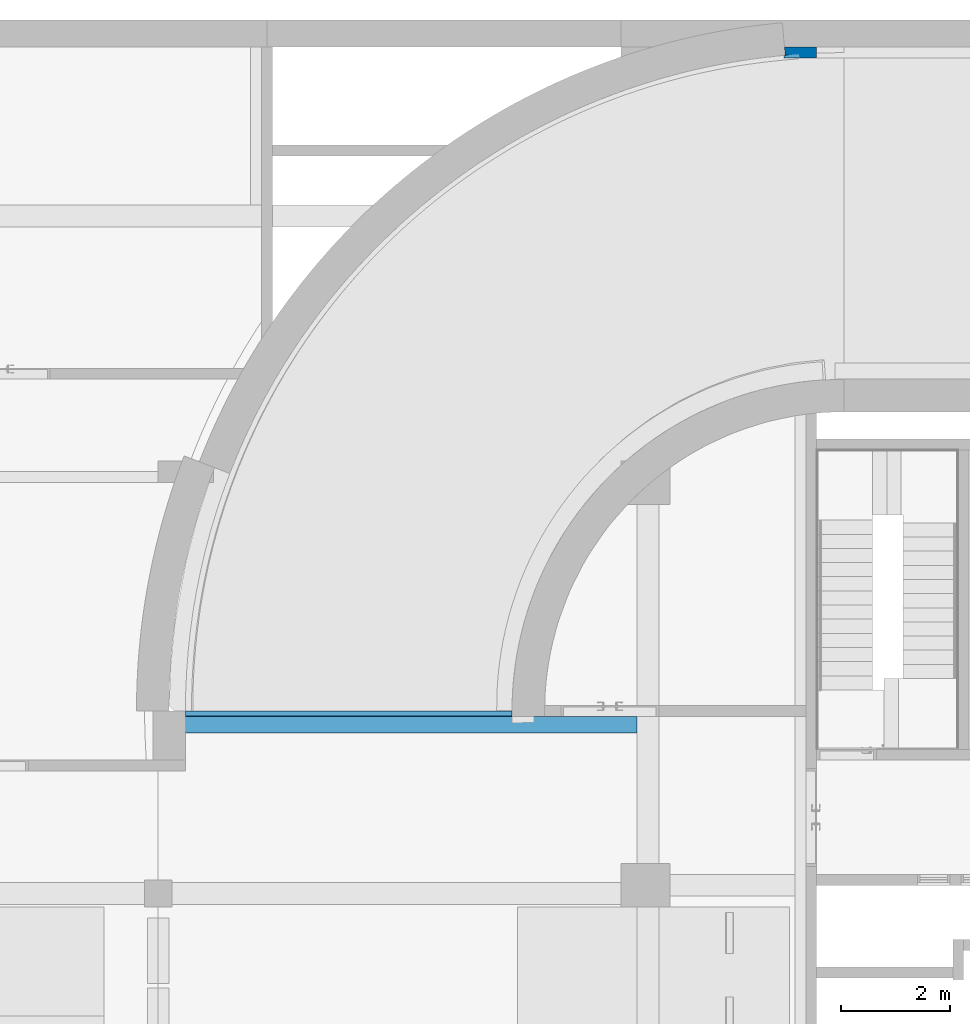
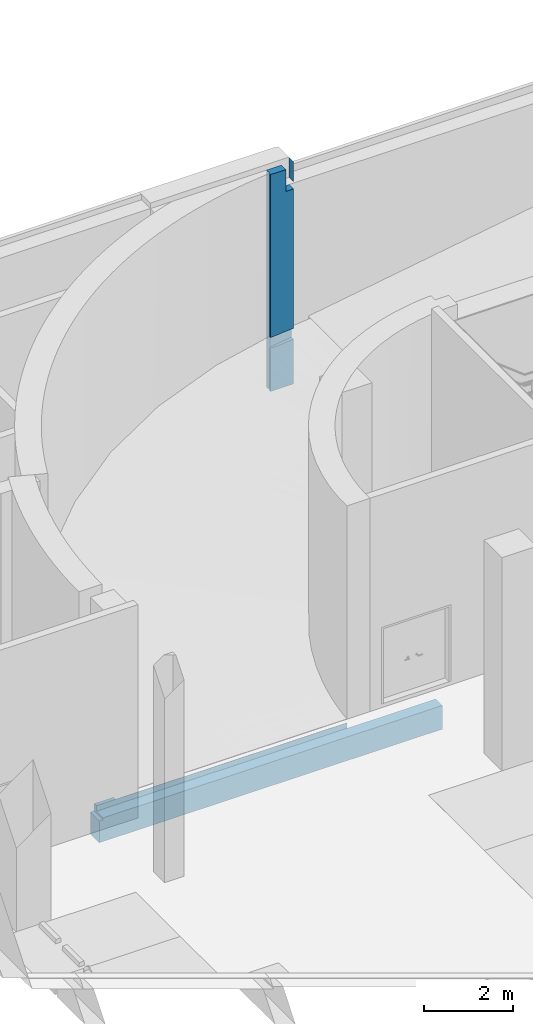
# One storey, part 18 of 29: 1 beam, 1 column.
"""IFC2X3 building model written with IfcOpenShell, lengths in millimetres."""

from ifc_helpers import new_model, entity, si_unit, converted_unit, derived_unit, direction, frame, origin, place, context, subcontext, project, spatial, faceted_brep, source, transform, mapped, material, material_list, type_object, type_shapes, element, save


model = new_model("IFC2X3")

# Units and contexts
model_context = context("Model", 3, precision=0.01, world=origin(), true_north=direction((6.123031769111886e-17, 1.0)))
body_context = subcontext(model_context, "Body", "Model", "MODEL_VIEW")
ifc_project = project(units=[si_unit("LENGTHUNIT", "METRE", prefix="MILLI"), si_unit("AREAUNIT", "SQUARE_METRE"), si_unit("VOLUMEUNIT", "CUBIC_METRE"), converted_unit("PLANEANGLEUNIT", "DEGREE", entity("IfcRatioMeasure", 0.017453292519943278), si_unit("PLANEANGLEUNIT", "RADIAN"), dimensions=[0, 0, 0, 0, 0, 0, 0]), si_unit("MASSUNIT", "GRAM", prefix="KILO"), derived_unit("MASSDENSITYUNIT", [(si_unit("MASSUNIT", "GRAM", prefix="KILO"), 1), (si_unit("LENGTHUNIT", "METRE"), -3)]), derived_unit("MOMENTOFINERTIAUNIT", [(si_unit("LENGTHUNIT", "METRE"), 4)]), si_unit("TIMEUNIT", "SECOND"), si_unit("FREQUENCYUNIT", "HERTZ"), si_unit("THERMODYNAMICTEMPERATUREUNIT", "DEGREE_CELSIUS"), derived_unit("THERMALTRANSMITTANCEUNIT", [(si_unit("MASSUNIT", "GRAM", prefix="KILO"), 1), (si_unit("THERMODYNAMICTEMPERATUREUNIT", "KELVIN"), -1), (si_unit("TIMEUNIT", "SECOND"), -3)]), derived_unit("VOLUMETRICFLOWRATEUNIT", [(si_unit("LENGTHUNIT", "METRE"), 3), (si_unit("TIMEUNIT", "SECOND"), -1)]), derived_unit("MASSFLOWRATEUNIT", [(si_unit("MASSUNIT", "GRAM", prefix="KILO"), 1), (si_unit("TIMEUNIT", "SECOND"), -1)]), derived_unit("ROTATIONALFREQUENCYUNIT", [(si_unit("TIMEUNIT", "SECOND"), -1)]), si_unit("ELECTRICCURRENTUNIT", "AMPERE"), si_unit("ELECTRICVOLTAGEUNIT", "VOLT"), si_unit("POWERUNIT", "WATT"), si_unit("FORCEUNIT", "NEWTON", prefix="KILO"), si_unit("ILLUMINANCEUNIT", "LUX"), si_unit("LUMINOUSFLUXUNIT", "LUMEN"), si_unit("LUMINOUSINTENSITYUNIT", "CANDELA"), derived_unit("USERDEFINED", [(si_unit("MASSUNIT", "GRAM", prefix="KILO"), -1), (si_unit("LENGTHUNIT", "METRE"), -2), (si_unit("TIMEUNIT", "SECOND"), 3), (si_unit("LUMINOUSFLUXUNIT", "LUMEN"), 1)]), derived_unit("SOUNDPOWERUNIT", [(si_unit("MASSUNIT", "GRAM", prefix="KILO"), 1), (si_unit("LENGTHUNIT", "METRE"), 2), (si_unit("TIMEUNIT", "SECOND"), -3)]), derived_unit("SOUNDPRESSUREUNIT", [(si_unit("MASSUNIT", "GRAM", prefix="KILO"), 1), (si_unit("LENGTHUNIT", "METRE"), -1), (si_unit("TIMEUNIT", "SECOND"), -2)]), derived_unit("LINEARVELOCITYUNIT", [(si_unit("LENGTHUNIT", "METRE"), 1), (si_unit("TIMEUNIT", "SECOND"), -1)]), si_unit("PRESSUREUNIT", "PASCAL"), derived_unit("USERDEFINED", [(si_unit("LENGTHUNIT", "METRE"), -2), (si_unit("MASSUNIT", "GRAM", prefix="KILO"), 1), (si_unit("TIMEUNIT", "SECOND"), -2)]), derived_unit("LINEARFORCEUNIT", [(si_unit("MASSUNIT", "GRAM", prefix="KILO"), 1), (si_unit("LENGTHUNIT", "METRE"), 1), (si_unit("TIMEUNIT", "SECOND"), -2), (si_unit("LENGTHUNIT", "METRE"), -1)]), derived_unit("PLANARFORCEUNIT", [(si_unit("MASSUNIT", "GRAM", prefix="KILO"), 1), (si_unit("LENGTHUNIT", "METRE"), 1), (si_unit("TIMEUNIT", "SECOND"), -2), (si_unit("LENGTHUNIT", "METRE"), -2)])], contexts=[model_context])

# Site, building, storey
site_placement = place(None, frame((-14167.972527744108, -657.2125860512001, 0.0)))
site = spatial("IfcSite", under=ifc_project, at=site_placement, Name="Default", CompositionType="ELEMENT")
building_placement = place(site_placement, origin())
building = spatial("IfcBuilding", under=site, at=building_placement, Name="Sample Building", CompositionType="ELEMENT")
storey_placement = place(building_placement, frame((0.0, 0.0, -6100.0)))
storey = spatial("IfcBuildingStorey", under=building, at=storey_placement, Name="지하1층", CompositionType="ELEMENT", Elevation=-6099.999999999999)

# Column
ifc_material = material(Name="KBIMS-콘크리트")
ifc_material_list_1 = material_list([ifc_material, ifc_material])
ifc_material_list_2 = material_list([ifc_material, ifc_material])
column_type = type_object("IfcColumnType", Name="CL111-철근콘크리트구조 기둥 (각형)1:CL111-철근콘크리트구조 기둥 (각형)_600x600_B2-10C4", PredefinedType="COLUMN", material=ifc_material_list_2)
shared_shape = source(origin(), body_context, "Body", "Brep", [
    faceted_brep([(12.088862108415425, 52.43512341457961, 0.0), (22.59105163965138, 53.38001963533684, 0.0), (9.321749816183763, 201.58719095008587, 0.0), (601.5875000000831, 201.58719095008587, 0.0), (601.5875000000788, 1.5875000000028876, 0.0), (1.5875000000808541, 1.5875000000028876, 0.0), (1.5874999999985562, 51.481075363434, 0.0), (399.7669022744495, 1.5874999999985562, 5350.0), (601.5875000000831, 1.5874999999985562, 5350.0), (601.5875000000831, 201.58719095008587, 5350.0), (399.7669022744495, 201.58719095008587, 5350.0), (601.5875000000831, 1.5874999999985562, 1526.3540235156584), (601.5875000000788, 26.352500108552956, 1526.4330045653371), (601.5875000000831, 46.41925903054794, 1526.497001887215), (601.5875000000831, 91.25112012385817, 1526.6389270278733), (601.5875000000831, 91.25112012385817, 1226.6389270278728), (601.5875000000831, 46.41925903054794, 1226.4970018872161), (601.5875000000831, 26.352500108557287, 1226.4330045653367), (601.5875000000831, 1.5874999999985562, 1226.35402351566), (311.8502261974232, 75.78587436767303, 1204.381623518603), (311.8502261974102, 75.78587436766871, 1504.3816235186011), (22.591051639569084, 53.380019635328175, 1482.1243215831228), (22.59105163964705, 53.38001963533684, 1182.124321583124), (301.590715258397, 1.5874999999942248, 1503.2195613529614), (226.59055920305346, 1.5874999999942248, 1497.4463337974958), (376.5904964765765, 1.5875000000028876, 1508.9973938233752), (526.5890732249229, 1.5874999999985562, 1520.5650902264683), (451.58993749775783, 1.5874999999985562, 1514.779385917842), (1.587499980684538, 26.534285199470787, 1480.332914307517), (12.08886203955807, 52.43512340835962, 1481.3153708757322), (1.5875000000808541, 51.481075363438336, 1480.5064183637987), (151.5899939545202, 1.5875000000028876, 1491.6781541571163), (76.58898546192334, 1.5874999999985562, 1485.9154629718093), (1.5875000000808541, 1.5874999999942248, 1480.1586981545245), (263.28369554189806, 1.5874999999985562, 1200.2702252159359), (330.9450582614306, 1.5874999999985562, 1205.4804337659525), (398.60613277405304, 1.5874999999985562, 1210.694249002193), (466.26695690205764, 1.5874999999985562, 1215.9113443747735), (533.9275054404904, 1.5874999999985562, 1221.1313870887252), (12.088862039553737, 52.43512340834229, 1181.3153708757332), (1.587499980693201, 26.534285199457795, 1180.3329143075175), (1.5875000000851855, 51.481075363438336, 1180.5064183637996), (132.43633113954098, 1.5875000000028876, 1190.2059427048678), (197.86017962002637, 1.5875000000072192, 1195.2360995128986), (67.01213608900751, 1.5875000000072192, 1185.180047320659), (1.5875000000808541, 1.5874999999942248, 1180.1586981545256), (399.7669022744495, 201.58719095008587, 5550.0), (399.7669022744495, 201.58719095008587, 5950.0), (399.7669022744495, 1.5874999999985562, 5950.0), (1.5875000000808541, 1.5874999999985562, 816.3475724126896), (201.58750000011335, 1.5874999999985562, 5950.0), (1.5875000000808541, 1.5874999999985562, 5950.0), (276.8869503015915, 1.5874999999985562, 5950.0), (9.321749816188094, 201.58719095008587, 5950.0), (22.591051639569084, 53.380019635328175, 5950.0), (12.088862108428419, 52.43512341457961, 5950.0), (1.5875000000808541, 51.48107536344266, 5950.0), (1.5874999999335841, 51.481075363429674, 5153.419959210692), (1.5874999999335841, 51.481075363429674, 5233.077963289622), (12.638931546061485, 52.48484288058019, 5147.178589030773), (1.5874999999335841, 51.481075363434, 5073.76195513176), (10.346427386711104, 52.277461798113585, 1635.1212768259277), (1.5874999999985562, 51.481075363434, 1720.5610997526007), (12.112810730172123, 52.43728860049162, 1705.500990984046), (11.353419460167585, 52.368608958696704, 3998.378900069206), (1.5874999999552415, 51.481075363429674, 3958.5498980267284), (1.58749999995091, 51.481075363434, 4038.207902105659), (12.123165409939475, 52.438224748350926, 3417.856828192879), (22.591051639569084, 53.380019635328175, 3367.009373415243), (11.301039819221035, 52.363869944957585, 3340.9301991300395), (11.070683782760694, 52.343025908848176, 5682.494776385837), (22.59105163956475, 53.380019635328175, 5740.5683275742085), (22.591051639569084, 53.380019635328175, 5670.757770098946), (22.591051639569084, 53.380019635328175, 5600.9472126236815), (12.279351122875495, 52.45234412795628, 3220.9028584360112), (22.591051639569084, 53.380019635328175, 3157.577700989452), (11.908602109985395, 52.41882463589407, 3100.8755177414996), (12.144037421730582, 52.44011172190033, 1564.7819312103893), (1.5874999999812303, 51.481075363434, 2440.725143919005), (12.119967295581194, 52.437935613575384, 2479.682074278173), (12.047959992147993, 52.43142535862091, 2388.518129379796), (12.190006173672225, 52.44426748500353, 4317.0109163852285), (10.876401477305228, 52.32544259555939, 4242.9093740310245), (1.58749999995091, 51.481075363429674, 4277.181914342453), (22.591051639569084, 53.380019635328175, 4972.652195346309), (12.15557170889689, 52.441154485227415, 4874.616944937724), (12.57268443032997, 52.47885630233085, 5007.557474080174), (12.027571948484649, 52.42958197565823, 2002.0374066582), (22.591051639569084, 53.380019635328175, 2041.841128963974), (22.591051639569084, 53.380019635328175, 1962.2336843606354), (1.587499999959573, 51.481075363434, 3878.8918939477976), (12.59329202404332, 52.480718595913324, 3890.5885544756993), (1.587499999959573, 51.481075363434, 3799.233889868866), (1.5874999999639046, 51.481075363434, 3480.601873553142), (1.5874999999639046, 51.481075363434, 3560.259877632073), (12.812132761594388, 52.5004928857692, 3520.430875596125), (12.637285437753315, 52.484694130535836, 5850.182607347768), (22.591051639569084, 53.380019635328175, 5810.378885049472), (12.499509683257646, 52.47224326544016, 5765.001452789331), (12.941390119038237, 52.51217060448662, 2827.7825010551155), (1.5874999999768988, 51.481075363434, 2800.8071660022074), (1.5874999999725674, 51.481075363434, 2920.8345066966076), (1.5874999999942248, 51.481075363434, 1600.5337590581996), (12.630205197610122, 52.484054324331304, 2913.240749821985), (22.591051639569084, 53.380019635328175, 2948.146028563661), (22.591051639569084, 53.380019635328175, 2878.3354710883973), (13.076781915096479, 52.52440103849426, 2557.0320015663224), (1.5874999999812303, 51.481075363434, 2560.752484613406), (11.636414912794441, 52.3942088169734, 2633.9985199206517), (22.591051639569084, 53.380019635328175, 2439.8783519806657), (11.018183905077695, 52.33827477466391, 3595.2767076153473), (12.905359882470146, 52.50891560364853, 4635.64293270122), (1.5874999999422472, 51.481075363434, 4675.4719347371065), (10.995076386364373, 52.33618351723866, 4709.9336942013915), (13.109234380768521, 52.5273323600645, 5483.0800975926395), (12.056586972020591, 52.43220535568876, 5352.564969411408), (1.5874999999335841, 51.481075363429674, 5392.393971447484), (22.591051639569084, 53.380019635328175, 3087.767143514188), (11.991223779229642, 52.426295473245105, 3024.839297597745), (1.5874999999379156, 51.481075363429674, 4914.445946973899), (1.5874999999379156, 51.481075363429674, 4994.10395105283), (22.591051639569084, 53.380019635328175, 4763.2205229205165), (22.591051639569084, 53.380019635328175, 4693.409965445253), (13.332759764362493, 52.54752025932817, 2314.7005906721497), (22.591051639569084, 53.380019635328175, 2280.6634627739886), (12.074477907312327, 52.43382292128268, 2240.8597404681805), (13.512237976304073, 52.56372697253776, 1930.7047601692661), (12.002052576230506, 52.427274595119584, 4087.52894806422), (22.591051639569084, 53.380019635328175, 4065.11494816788), (22.591051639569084, 53.380019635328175, 5889.986329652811), (22.591051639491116, 53.38001963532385, 60.0136703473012), (22.591051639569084, 53.380019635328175, 4833.031080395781), (12.008907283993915, 52.42789438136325, 4785.11957021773), (1.5874999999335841, 51.481075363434, 5312.735967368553), (11.433768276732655, 52.37587801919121, 5270.771958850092), (11.404920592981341, 52.37326826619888, 4398.294044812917), (1.58749999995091, 51.481075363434, 4356.839918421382), (22.591051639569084, 53.38001963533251, 5531.136655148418), (12.561300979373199, 52.47782757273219, 5566.041933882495), (14.009919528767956, 52.60865305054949, 5077.334026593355), (22.591051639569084, 53.380019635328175, 1842.2063436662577), (12.178210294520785, 52.44320110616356, 1782.1926733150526), (12.06178996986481, 52.4326757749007, 1859.3361900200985), (1.5874999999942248, 51.481075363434, 1840.5884404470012), (1.5874999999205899, 51.481075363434, 5730.6703214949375), (1.587499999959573, 51.481075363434, 3639.9178817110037), (11.935178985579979, 52.42122783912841, 3670.928840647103), (1.587499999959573, 51.481075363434, 3719.575885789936), (12.225160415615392, 52.44744545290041, 3759.4048878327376), (22.591051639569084, 53.380019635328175, 3925.493833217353), (22.591051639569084, 53.380019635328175, 3716.0621607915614), (22.591051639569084, 53.380019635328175, 3855.683275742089), (22.591051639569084, 53.380019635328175, 3785.8727182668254), (22.591051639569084, 53.380019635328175, 3646.2516033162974), (22.591051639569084, 53.380019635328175, 3576.441045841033), (1.5874999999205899, 51.481075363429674, 5829.972659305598), (22.591051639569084, 53.380019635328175, 3995.304390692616), (1.58749999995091, 51.481075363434, 4197.523910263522), (12.24252232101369, 52.44901494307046, 4168.856315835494), (22.591051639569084, 53.380019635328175, 4134.925505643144), (1.58749999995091, 51.481075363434, 4117.86590618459), (1.5874999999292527, 51.481075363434, 5551.709979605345), (1.5874999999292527, 51.481075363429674, 5472.051975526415), (1.5874999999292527, 51.481075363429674, 5631.367983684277), (22.591051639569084, 53.38001963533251, 5182.083867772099), (22.591051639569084, 53.380019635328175, 5112.273310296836), (22.591051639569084, 53.380019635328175, 5461.326097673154), (22.591051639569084, 53.380019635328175, 5391.51554019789), (22.591051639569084, 53.380019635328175, 5321.704982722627), (22.591051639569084, 53.380019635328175, 5251.894425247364), (22.591051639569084, 53.380019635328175, 5042.462752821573), (1.587499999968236, 51.481075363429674, 3160.88918808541), (1.587499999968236, 51.481075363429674, 3280.916528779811), (1.5874999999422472, 51.481075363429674, 4755.129938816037), (1.5874999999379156, 51.481075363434, 4834.787942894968), (22.591051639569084, 53.380019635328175, 4902.841637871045), (1.5874999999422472, 51.481075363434, 4595.813930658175), (12.653629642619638, 52.48617105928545, 4518.883571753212), (1.5874999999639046, 51.48107536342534, 3400.943869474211), (1.587499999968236, 51.481075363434, 3040.8618473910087), (22.591051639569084, 53.380019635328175, 2121.4485735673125), (10.581187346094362, 52.298718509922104, 2140.6567921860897), (22.591051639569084, 53.380019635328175, 2201.0560181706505), (22.591051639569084, 53.380019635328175, 4204.736063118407), (1.5874999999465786, 51.481075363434, 4436.497922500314), (22.591051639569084, 53.380019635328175, 1722.17900297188), (22.591051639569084, 53.380019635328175, 4274.546620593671), (22.591051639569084, 53.380019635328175, 4344.357178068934), (1.5874999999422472, 51.481075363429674, 4516.155926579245), (22.591051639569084, 53.380019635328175, 4483.9782930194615), (22.591051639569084, 53.380019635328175, 4414.167735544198), (22.591051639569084, 53.380019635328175, 4553.788850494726), (22.591051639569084, 53.380019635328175, 4623.5994079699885), (10.563187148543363, 52.29708881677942, 2743.4188998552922), (22.591051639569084, 53.380019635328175, 2599.093241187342), (22.591051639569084, 53.380019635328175, 2668.903798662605), (22.591051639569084, 53.380019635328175, 3297.198815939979), (22.591051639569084, 53.380019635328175, 3227.388258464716), (1.5874999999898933, 51.481075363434, 1960.6157811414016), (22.591051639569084, 53.380019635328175, 1602.1516622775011), (22.591051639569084, 53.380019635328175, 2519.4857965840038), (1.5874999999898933, 51.481075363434, 2200.6704625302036), (22.591051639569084, 53.380019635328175, 2360.270907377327), (1.587499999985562, 51.481075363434, 2320.6978032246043), (22.591051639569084, 53.380019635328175, 3506.6304883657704), (22.591051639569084, 53.380019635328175, 3436.8199308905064), (22.591051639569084, 53.380019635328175, 3017.9565860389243), (22.591051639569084, 53.380019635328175, 2808.524913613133), (22.591051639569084, 53.380019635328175, 2738.714356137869), (1.5874999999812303, 51.481075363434, 2680.7798253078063), (13.57240796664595, 52.56915966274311, 2072.555026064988), (1.587499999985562, 51.481075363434, 2080.6431218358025), (22.591051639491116, 53.38001963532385, 147.7655401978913), (22.591051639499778, 53.380019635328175, 221.64831029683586), (22.591051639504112, 53.38001963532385, 295.53108039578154), (22.591051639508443, 53.380019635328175, 369.41385049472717), (22.591051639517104, 53.38001963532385, 443.2966205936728), (22.591051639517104, 53.380019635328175, 517.1793906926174), (22.59105163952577, 53.380019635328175, 591.062160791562), (22.59105163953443, 53.380019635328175, 664.9449308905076), (22.59105163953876, 53.380019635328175, 738.8277009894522), (22.591051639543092, 53.380019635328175, 812.7104710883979), (22.591051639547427, 53.380019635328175, 886.5932411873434), (22.591051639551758, 53.380019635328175, 974.3451110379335), (22.59105163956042, 53.380019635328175, 1062.0969808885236), (1.5875000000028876, 51.481075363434, 1060.4790776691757), (1.5875000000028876, 51.481075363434, 1000.0036789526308), (1.5875000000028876, 51.481075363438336, 909.7523092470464), (1.5875000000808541, 51.48107536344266, 819.500939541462), (1.5874999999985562, 51.481075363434, 717.0633220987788), (1.5874999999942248, 51.481075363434, 614.6257046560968), (1.5874999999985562, 51.481075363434, 512.1880872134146), (1.5874999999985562, 51.481075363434, 409.7504697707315), (1.5875000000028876, 51.481075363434, 307.3128523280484), (1.5874999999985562, 51.481075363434, 204.8752348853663), (1.5874999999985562, 51.481075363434, 120.02734069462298), (12.61789768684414, 52.482942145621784, 701.8863159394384), (10.055539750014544, 52.25111652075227, 774.8302281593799), (12.786536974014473, 52.49818027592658, 930.4691761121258), (12.135715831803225, 52.43935939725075, 1030.2413783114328), (10.252804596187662, 52.268983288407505, 1105.7489384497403), (12.39499227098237, 52.46279691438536, 848.1554311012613), (11.350050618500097, 52.36830417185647, 162.45128779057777), (12.111016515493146, 52.43712638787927, 249.94116593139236), (10.189937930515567, 52.26328965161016, 551.9425738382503), (12.430099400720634, 52.46597002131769, 332.4724654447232), (13.547226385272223, 52.56688607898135, 406.43067865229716), (12.249233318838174, 52.44962160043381, 480.23800564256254), (11.580469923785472, 52.389148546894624, 81.19338017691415), (12.536185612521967, 52.47555784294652, 623.1957712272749)], [[[0, 1, 2, 3, 4, 5, 6]], [[7, 8, 9, 10]], [[8, 11, 12, 13, 14, 15, 16, 17, 18, 4, 3, 9]], [[19, 20, 21, 22]], [[19, 15, 14, 20]], [[20, 14, 13]], [[23, 24, 13]], [[20, 13, 24]], [[25, 23, 13]], [[13, 12, 25]], [[26, 27, 12]], [[12, 27, 25]], [[28, 29, 21]], [[29, 28, 30]], [[12, 11, 26]], [[28, 20, 31]], [[24, 31, 20]], [[32, 28, 31]], [[32, 33, 28]], [[21, 20, 28]], [[16, 15, 19]], [[34, 16, 19]], [[16, 34, 35]], [[16, 35, 36]], [[36, 17, 16]], [[17, 37, 38]], [[36, 37, 17]], [[22, 39, 40]], [[41, 40, 39]], [[38, 18, 17]], [[42, 19, 40]], [[19, 43, 34]], [[43, 19, 42]], [[40, 44, 42]], [[40, 45, 44]], [[19, 22, 40]], [[46, 47, 48, 7, 10]], [[35, 34, 43, 42, 44, 45, 49, 5, 4, 18, 38, 37, 36]], [[50, 51, 33, 32, 31, 24, 23, 25, 27, 26, 11, 8, 7, 48, 52]], [[47, 53, 54, 55, 56, 51, 50, 52, 48]], [[57, 58, 59, 60]], [[61, 62, 63]], [[64, 65, 66]], [[67, 68, 69]], [[70, 71, 72, 73]], [[74, 75, 76]], [[30, 77, 29]], [[78, 79, 80]], [[81, 82, 83]], [[84, 85, 86]], [[87, 88, 89]], [[90, 65, 91, 92]], [[93, 94, 95]], [[96, 97, 98]], [[99, 100, 101]], [[30, 102, 77]], [[103, 104, 105]], [[106, 107, 108]], [[80, 79, 109]], [[95, 94, 110]], [[111, 112, 113]], [[114, 115, 116]], [[76, 117, 118]], [[86, 119, 120, 60]], [[113, 121, 122]], [[123, 124, 125]], [[89, 126, 87]], [[64, 66, 127]], [[127, 128, 64]], [[55, 54, 129]], [[130, 1, 0]], [[85, 131, 132]], [[133, 115, 134]], [[135, 81, 136]], [[73, 137, 138]], [[139, 60, 59]], [[96, 129, 97]], [[140, 141, 142]], [[142, 126, 140]], [[62, 143, 141]], [[70, 144, 98]], [[56, 55, 96]], [[62, 141, 63]], [[77, 21, 29]], [[110, 145, 146]], [[146, 147, 148]], [[149, 91, 64]], [[129, 96, 55]], [[98, 97, 71]], [[64, 91, 65]], [[148, 150, 146]], [[151, 91, 149]], [[148, 147, 92]], [[91, 148, 92]], [[148, 151, 152, 150]], [[146, 150, 153]], [[154, 95, 110]], [[155, 98, 144]], [[96, 155, 56]], [[98, 155, 96]], [[71, 70, 98]], [[128, 156, 149, 64]], [[82, 157, 83]], [[158, 159, 127]], [[158, 160, 157]], [[160, 158, 127]], [[161, 114, 116, 162]], [[163, 144, 70]], [[59, 164, 165]], [[73, 138, 70]], [[161, 138, 114]], [[138, 137, 114]], [[138, 163, 70]], [[163, 138, 161]], [[114, 137, 166, 167]], [[115, 114, 167]], [[116, 115, 133]], [[115, 168, 134]], [[168, 169, 164, 134]], [[59, 58, 134]], [[170, 86, 139]], [[164, 59, 134]], [[171, 172, 74]], [[113, 173, 132]], [[151, 148, 91]], [[139, 165, 170]], [[84, 86, 170]], [[85, 174, 119]], [[86, 85, 119]], [[85, 84, 175, 131]], [[176, 111, 177]], [[85, 132, 174]], [[122, 111, 113]], [[58, 133, 134]], [[178, 69, 172]], [[118, 179, 76]], [[179, 171, 76]], [[180, 181, 182]], [[83, 136, 81]], [[82, 183, 158]], [[184, 177, 135]], [[141, 185, 63]], [[186, 82, 81]], [[135, 187, 81]], [[177, 184, 188, 176]], [[135, 189, 190, 187]], [[135, 177, 189]], [[191, 189, 177]], [[111, 122, 192, 191]], [[176, 112, 111]], [[177, 111, 191]], [[135, 136, 184]], [[127, 66, 160]], [[145, 147, 146]], [[60, 139, 86]], [[165, 139, 59]], [[82, 186, 183]], [[173, 174, 132]], [[183, 159, 158]], [[157, 82, 158]], [[173, 113, 112]], [[132, 121, 113]], [[115, 167, 168]], [[193, 100, 99]], [[194, 108, 195]], [[99, 101, 103]], [[187, 186, 81]], [[185, 141, 140]], [[142, 141, 143]], [[69, 74, 172]], [[74, 196, 197, 75]], [[143, 198, 142]], [[198, 87, 126]], [[185, 199, 63]], [[110, 153, 154]], [[199, 77, 61]], [[200, 79, 106]], [[194, 200, 106]], [[109, 79, 200]], [[107, 79, 78]], [[125, 181, 201]], [[80, 109, 202]], [[203, 78, 80]], [[61, 77, 102]], [[123, 202, 124]], [[21, 77, 199]], [[62, 61, 102]], [[199, 61, 63]], [[93, 95, 67]], [[95, 154, 204, 205]], [[95, 205, 67]], [[145, 110, 94]], [[110, 146, 153]], [[127, 159, 128]], [[132, 131, 121]], [[67, 69, 178]], [[74, 69, 196]], [[67, 178, 93]], [[76, 75, 117]], [[74, 76, 171]], [[117, 206, 104, 118]], [[101, 179, 118]], [[103, 105, 99]], [[104, 103, 118]], [[118, 103, 101]], [[193, 207, 208, 195]], [[207, 193, 99]], [[209, 100, 193]], [[108, 209, 193]], [[195, 108, 193]], [[107, 209, 108]], [[107, 106, 79]], [[194, 106, 108]], [[99, 105, 207]], [[88, 87, 210]], [[201, 181, 211]], [[198, 211, 87]], [[211, 181, 210]], [[140, 126, 89]], [[198, 126, 142]], [[182, 181, 125]], [[180, 88, 210]], [[182, 125, 124]], [[201, 203, 125]], [[123, 203, 80]], [[203, 123, 125]], [[202, 123, 80]], [[211, 210, 87]], [[180, 210, 181]], [[68, 67, 205]], [[68, 196, 69]], [[53, 2, 1, 130, 212, 213, 214, 215, 216, 217, 218, 219, 220, 221, 222, 223, 224, 22, 21, 199, 185, 140, 89, 88, 180, 182, 124, 202, 109, 200, 194, 195, 208, 207, 105, 104, 206, 117, 75, 197, 196, 68, 205, 204, 154, 153, 150, 152, 151, 149, 156, 128, 159, 183, 186, 187, 190, 189, 191, 192, 122, 121, 131, 175, 84, 170, 165, 164, 169, 168, 167, 166, 137, 73, 72, 71, 97, 129, 54]], [[51, 56, 155, 144, 163, 161, 162, 116, 133, 58, 57, 60, 120, 119, 174, 173, 112, 176, 188, 184, 136, 83, 157, 160, 66, 65, 90, 92, 147, 145, 94, 93, 178, 172, 171, 179, 101, 100, 209, 107, 78, 203, 201, 211, 198, 143, 62, 102, 30, 28, 33]], [[40, 41, 225, 226, 227, 228, 229, 230, 231, 232, 233, 234, 235, 6, 5, 49, 45]], [[220, 236, 237]], [[238, 239, 223]], [[240, 239, 225]], [[227, 238, 241]], [[213, 242, 243]], [[242, 235, 234]], [[244, 218, 217]], [[215, 245, 246]], [[232, 247, 246]], [[22, 224, 240]], [[226, 225, 239]], [[239, 224, 223]], [[240, 41, 39]], [[240, 224, 239]], [[6, 235, 248]], [[242, 248, 235]], [[241, 238, 222]], [[238, 223, 222]], [[130, 0, 248]], [[239, 238, 226]], [[242, 234, 243]], [[248, 212, 130]], [[216, 247, 217]], [[233, 243, 234]], [[213, 212, 242]], [[248, 242, 212]], [[6, 248, 0]], [[41, 240, 225]], [[240, 39, 22]], [[219, 218, 249]], [[238, 227, 226]], [[241, 228, 227]], [[237, 221, 220]], [[236, 230, 229]], [[219, 236, 220]], [[241, 237, 228]], [[230, 236, 249]], [[229, 228, 237]], [[243, 245, 214]], [[245, 243, 233]], [[214, 245, 215]], [[232, 245, 233]], [[241, 221, 237]], [[229, 237, 236]], [[241, 222, 221]], [[243, 214, 213]], [[219, 249, 236]], [[247, 244, 217]], [[230, 249, 244]], [[247, 232, 231]], [[247, 216, 246]], [[244, 247, 231]], [[215, 246, 216]], [[232, 246, 245]], [[230, 244, 231]], [[244, 249, 218]], [[47, 46, 10, 9, 3, 2, 53]]]),
    faceted_brep([(601.5875000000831, 1.5874999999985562, 6100.0), (601.5875000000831, 1.5874999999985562, 5550.0), (601.5875000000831, 201.58719095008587, 5550.0), (601.5875000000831, 201.58719095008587, 6100.0), (599.766902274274, 1.5874999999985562, 6100.0), (599.766902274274, 1.5874999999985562, 5550.0), (599.766902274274, 201.58719095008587, 6100.0), (599.766902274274, 201.58719095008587, 5550.0)], [[[0, 1, 2, 3]], [[1, 0, 4, 5]], [[0, 3, 6, 4]], [[2, 1, 5, 7]], [[3, 2, 7, 6]], [[5, 4, 6, 7]]]),
])
type_shapes(column_type, [shared_shape])
column_placement = place(storey_placement, frame((29666.35891218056, 35155.62511703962, 0.0)))
element("IfcColumn", 1, at=column_placement, inside=storey, type_object=column_type, material=ifc_material_list_1, Name="CL111-철근콘크리트구조 기둥 (각형)1:CL111-철근콘크리트구조 기둥 (각형)_600x600_B2-10C4", ObjectType="CL111-철근콘크리트구조 기둥 (각형)1:CL111-철근콘크리트구조 기둥 (각형)_600x600_B2-10C4", context=body_context, shape_type="MappedRepresentation", body=[
    mapped(shared_shape, transform((0.0, 0.0, 0.0), scale=1.0)),
])

# Beam
beam_type = type_object("IfcBeamType", Name="BM111-철근콘크리트구조 보:BM110-철근 콘크리트구조 보_400 x 800_B1B3", PredefinedType="NOTDEFINED")
beam_placement = place(storey_placement, frame((18067.963798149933, 22757.212617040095, -800.0), z_axis=(0.0, 0.0, 1.0), x_axis=(-1.0, 0.0, 0.0)))
element("IfcBeam", 2, at=beam_placement, inside=storey, type_object=beam_type, material=ifc_material, Name="BM111-철근콘크리트구조 보:BM110-철근 콘크리트구조 보_400 x 800_B1B3", ObjectType="BM111-철근콘크리트구조 보:BM110-철근 콘크리트구조 보_400 x 800_B1B3", context=body_context, shape_type="Brep", body=[
    faceted_brep([(-450.0032858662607, -400.0, 800.0), (-100.0165163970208, -400.0, 800.0), (-100.0165163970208, -299.9996909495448, 800.0), (-6600.828420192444, -299.99969094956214, 800.0), (-6600.750657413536, -304.8607633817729, 800.0), (-6600.676768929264, -309.7218962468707, 800.0), (-600.345477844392, -309.7218962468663, 800.0), (-600.11707328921, -348.7864928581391, 800.0), (-600.0147912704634, -387.85157380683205, 800.0), (-600.0102174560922, -393.9257925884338, 800.0), (-600.0086929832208, -400.0, 800.0), (-100.0165163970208, -400.0, 600.0), (-600.0086929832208, -400.0, 607.2654720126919), (-600.0086929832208, -400.0, 606.923419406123), (-1266.6757270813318, -400.0, 607.3249789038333), (-1933.3427310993, -400.0, 607.775989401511), (-2600.0096918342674, -400.0, 608.2861853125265), (-3266.676592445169, -400.0, 608.8680355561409), (-3933.343407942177, -400.0, 609.5377763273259), (-4600.010110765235, -400.0, 610.3169502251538), (-5266.676635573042, -400.0, 611.2347671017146), (-5933.34288538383, -400.0, 612.3318486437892), (-6600.008692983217, -400.0, 613.6664052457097), (-6600.008692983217, -400.0, 0.0), (-450.0032858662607, -400.0, 0.0), (0.0, -400.0, 0.0), (0.0, -400.0, 600.0), (-6600.213626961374, -349.9981656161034, 0.0), (-6600.828420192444, -299.99969094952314, 0.0), (-7000.8764329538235, -299.99969094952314, 0.0), (-8899.99134362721, -299.9996909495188, 0.0), (-8899.99134362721, 0.0, 0.0), (0.0, 0.0, 0.0), (-100.0165163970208, 0.0, 600.0), (0.0, 0.0, 600.0), (-8899.991343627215, 0.0, 650.0), (-100.0165163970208, 0.0, 650.0), (-8899.99134362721, -299.9996909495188, 650.0), (-6600.828420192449, -299.99969094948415, 650.0), (-100.0165163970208, -299.9996909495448, 650.0), (-7200.917859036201, -299.9996909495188, 650.0), (-6600.828420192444, -299.9996909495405, 725.0), (-600.345477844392, -309.7218962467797, 600.0), (-600.0928872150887, -354.861089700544, 603.4617056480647), (-5850.635357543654, -309.721896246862, 600.0), (-5100.593946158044, -309.72189624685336, 600.0), (-4350.552534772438, -309.72189624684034, 600.0), (-3600.511123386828, -309.7218962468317, 600.0), (-2850.469712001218, -309.721896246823, 600.0), (-2100.428300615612, -309.72189624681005, 600.0), (-1350.386889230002, -309.72189624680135, 600.0), (-6600.676768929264, -309.72189624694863, 700.0), (-6600.676768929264, -309.7218962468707, 600.0), (-6115.347837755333, -351.47945344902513, 605.8600109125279), (-6600.175708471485, -354.8603393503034, 606.8330052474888), (-6600.828420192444, -299.99969094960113, 325.0), (-6600.828420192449, -299.99969094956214, 487.5000000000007), (-6600.828420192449, -299.9996909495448, 568.7499999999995)], [[[0, 1, 2, 3, 4, 5, 6, 7, 8, 9, 10]], [[11, 1, 0, 10, 12, 13, 14, 15, 16, 17, 18, 19, 20, 21, 22, 23, 24, 25, 26]], [[25, 24, 23, 27, 28, 29, 30, 31, 32]], [[33, 34, 32, 31, 35, 36]], [[35, 31, 30, 37]], [[38, 39, 36, 35, 37, 40]], [[2, 39, 38, 41, 3]], [[42, 7, 6]], [[7, 42, 43]], [[43, 8, 7]], [[12, 10, 9]], [[43, 13, 12]], [[9, 8, 12]], [[8, 43, 12]], [[44, 45, 46, 47, 48, 49, 50, 42, 6, 5, 51, 52]], [[16, 49, 48]], [[43, 50, 14]], [[49, 16, 15]], [[17, 47, 18]], [[21, 53, 22]], [[48, 17, 16]], [[19, 45, 20]], [[46, 18, 47]], [[50, 15, 14]], [[20, 53, 21]], [[18, 46, 19]], [[44, 20, 45]], [[45, 19, 46]], [[42, 50, 43]], [[13, 43, 14]], [[49, 15, 50]], [[54, 53, 52]], [[44, 53, 20]], [[22, 53, 54]], [[47, 17, 48]], [[52, 53, 44]], [[29, 28, 55, 56, 57, 38, 40, 37, 30]], [[54, 27, 23]], [[4, 3, 41]], [[23, 22, 54]], [[55, 54, 56]], [[57, 56, 52, 51, 41, 38]], [[54, 55, 27]], [[28, 27, 55]], [[51, 4, 41]], [[4, 51, 5]], [[52, 56, 54]], [[25, 32, 34, 26]], [[34, 33, 11, 26]], [[39, 2, 1, 11, 33, 36]]]),
])

save(model, "model.ifc")
